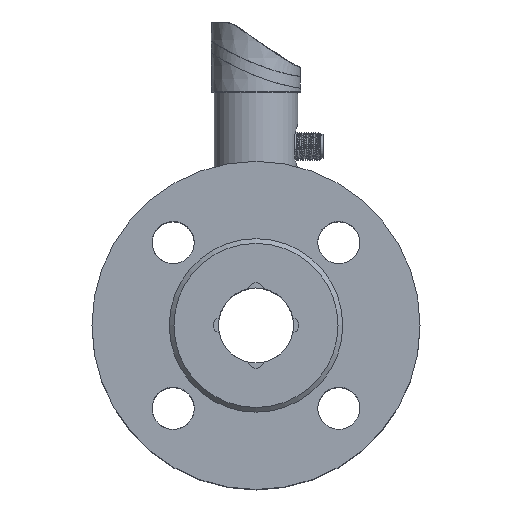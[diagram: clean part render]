
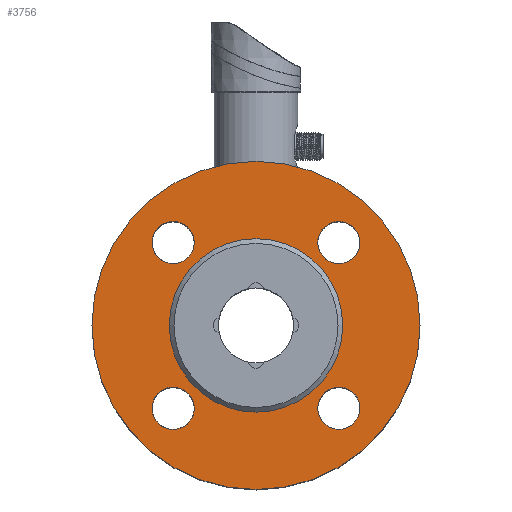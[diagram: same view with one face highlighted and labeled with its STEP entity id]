
A CAD part, top view. The second image highlights one B-rep face of the part: STEP entity #3756.
In plain terms, the highlighted planar face has unit normal (0, 0, 1).
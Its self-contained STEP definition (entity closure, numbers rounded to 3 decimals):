
#2312=FACE_BOUND('',#5630,.T.);
#2313=FACE_BOUND('',#5631,.T.);
#2314=FACE_BOUND('',#5632,.T.);
#2315=FACE_BOUND('',#5633,.T.);
#2316=FACE_BOUND('',#5634,.T.);
#2317=FACE_BOUND('',#5635,.T.);
#2880=CIRCLE('',#16041,9.);
#2882=CIRCLE('',#16044,9.);
#2884=CIRCLE('',#16047,9.);
#2906=CIRCLE('',#16078,70.);
#2908=CIRCLE('',#16081,9.);
#2984=CIRCLE('',#16212,37.);
#3756=ADVANCED_FACE('',(#2312,#2313,#2314,#2315,#2316,#2317),#4047,.T.);
#4047=PLANE('',#16213);
#5630=EDGE_LOOP('',(#10089));
#5631=EDGE_LOOP('',(#10090));
#5632=EDGE_LOOP('',(#10091));
#5633=EDGE_LOOP('',(#10092));
#5634=EDGE_LOOP('',(#10093));
#5635=EDGE_LOOP('',(#10094));
#10089=ORIENTED_EDGE('',*,*,#13301,.T.);
#10090=ORIENTED_EDGE('',*,*,#13158,.F.);
#10091=ORIENTED_EDGE('',*,*,#13192,.T.);
#10092=ORIENTED_EDGE('',*,*,#13190,.F.);
#10093=ORIENTED_EDGE('',*,*,#13160,.T.);
#10094=ORIENTED_EDGE('',*,*,#13156,.F.);
#11300=VERTEX_POINT('',#32944);
#11302=VERTEX_POINT('',#32949);
#11304=VERTEX_POINT('',#32954);
#11326=VERTEX_POINT('',#33015);
#11328=VERTEX_POINT('',#33020);
#11397=VERTEX_POINT('',#34299);
#13156=EDGE_CURVE('',#11300,#11300,#2880,.T.);
#13158=EDGE_CURVE('',#11302,#11302,#2882,.T.);
#13160=EDGE_CURVE('',#11304,#11304,#2884,.T.);
#13190=EDGE_CURVE('',#11326,#11326,#2906,.T.);
#13192=EDGE_CURVE('',#11328,#11328,#2908,.T.);
#13301=EDGE_CURVE('',#11397,#11397,#2984,.T.);
#16041=AXIS2_PLACEMENT_3D('',#32943,#19001,#19002);
#16044=AXIS2_PLACEMENT_3D('',#32948,#19007,#19008);
#16047=AXIS2_PLACEMENT_3D('',#32953,#19013,#19014);
#16078=AXIS2_PLACEMENT_3D('',#33014,#19083,#19084);
#16081=AXIS2_PLACEMENT_3D('',#33019,#19089,#19090);
#16212=AXIS2_PLACEMENT_3D('',#34298,#19371,#19372);
#16213=AXIS2_PLACEMENT_3D('',#34300,#19373,#19374);
#19001=DIRECTION('',(0.,0.,1.));
#19002=DIRECTION('',(1.,0.,0.));
#19007=DIRECTION('',(0.,0.,1.));
#19008=DIRECTION('',(1.,0.,0.));
#19013=DIRECTION('',(0.,0.,-1.));
#19014=DIRECTION('',(1.,0.,0.));
#19083=DIRECTION('',(0.,0.,-1.));
#19084=DIRECTION('',(1.,0.,0.));
#19089=DIRECTION('',(0.,0.,-1.));
#19090=DIRECTION('',(1.,0.,0.));
#19371=DIRECTION('',(0.,0.,-1.));
#19372=DIRECTION('',(1.,0.,0.));
#19373=DIRECTION('',(0.,0.,1.));
#19374=DIRECTION('',(-1.,0.,0.));
#32943=CARTESIAN_POINT('',(35.355,-43.855,41.));
#32944=CARTESIAN_POINT('',(44.355,-43.855,41.));
#32948=CARTESIAN_POINT('',(-35.355,-43.855,41.));
#32949=CARTESIAN_POINT('',(-26.355,-43.855,41.));
#32953=CARTESIAN_POINT('',(-35.355,26.855,41.));
#32954=CARTESIAN_POINT('',(-26.355,26.855,41.));
#33014=CARTESIAN_POINT('',(0.,-8.5,41.));
#33015=CARTESIAN_POINT('',(70.,-8.5,41.));
#33019=CARTESIAN_POINT('',(35.355,26.855,41.));
#33020=CARTESIAN_POINT('',(44.355,26.855,41.));
#34298=CARTESIAN_POINT('',(0.,-8.5,41.));
#34299=CARTESIAN_POINT('',(37.,-8.5,41.));
#34300=CARTESIAN_POINT('',(0.,-8.5,41.));
